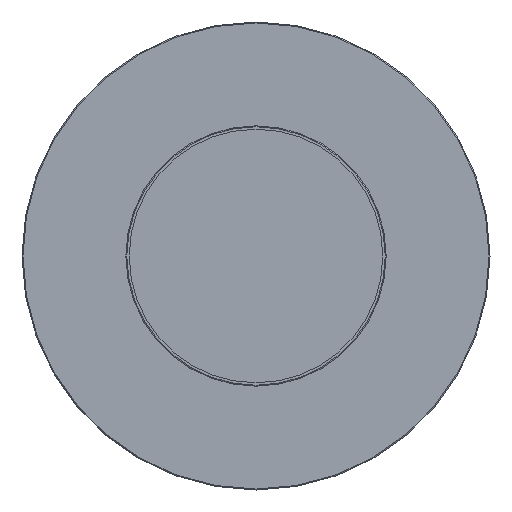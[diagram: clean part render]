
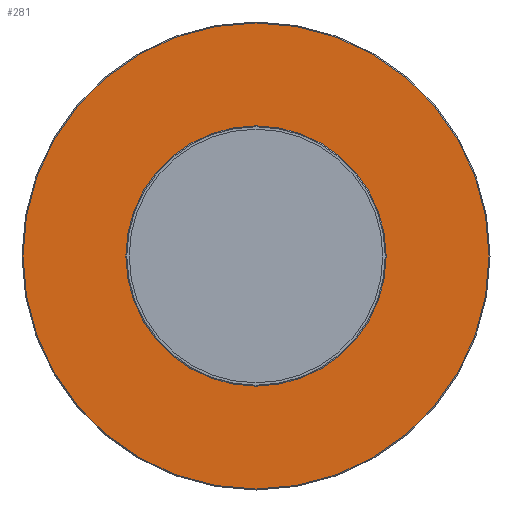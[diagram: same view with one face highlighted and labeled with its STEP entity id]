
A CAD part, front view. The second image highlights one B-rep face of the part: STEP entity #281.
In plain terms, the highlighted planar face has unit normal (0, -1, 0).
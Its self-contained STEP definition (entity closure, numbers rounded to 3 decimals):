
#110=CARTESIAN_POINT('',(0.,557.451,-19.75));
#111=VERTEX_POINT('',#110);
#112=CARTESIAN_POINT('',(0.,557.451,0.));
#113=DIRECTION('',(0.0,1.0,0.0));
#114=DIRECTION('',(0.0,0.0,1.0));
#115=AXIS2_PLACEMENT_3D('',#112,#113,#114);
#116=CIRCLE('',#115,19.75);
#117=EDGE_CURVE('',#111,#111,#116,.T.);
#258=CARTESIAN_POINT('',(0.,557.451,-239.0));
#259=VERTEX_POINT('',#258);
#260=CARTESIAN_POINT('',(0.,557.451,0.));
#261=DIRECTION('',(0.0,1.0,0.0));
#262=DIRECTION('',(0.0,0.0,1.0));
#263=AXIS2_PLACEMENT_3D('',#260,#261,#262);
#264=CIRCLE('',#263,239.0);
#265=EDGE_CURVE('',#259,#259,#264,.T.);
#270=CARTESIAN_POINT('',(0.,557.451,0.));
#271=DIRECTION('',(0.0,-1.0,0.0));
#272=DIRECTION('',(0.0,0.0,1.0));
#273=AXIS2_PLACEMENT_3D('',#270,#271,#272);
#274=PLANE('',#273);
#275=ORIENTED_EDGE('',*,*,#265,.F.);
#276=EDGE_LOOP('',(#275));
#277=FACE_OUTER_BOUND('',#276,.T.);
#278=ORIENTED_EDGE('',*,*,#117,.T.);
#279=EDGE_LOOP('',(#278));
#280=FACE_BOUND('',#279,.T.);
#281=ADVANCED_FACE('',(#277,#280),#274,.T.);
